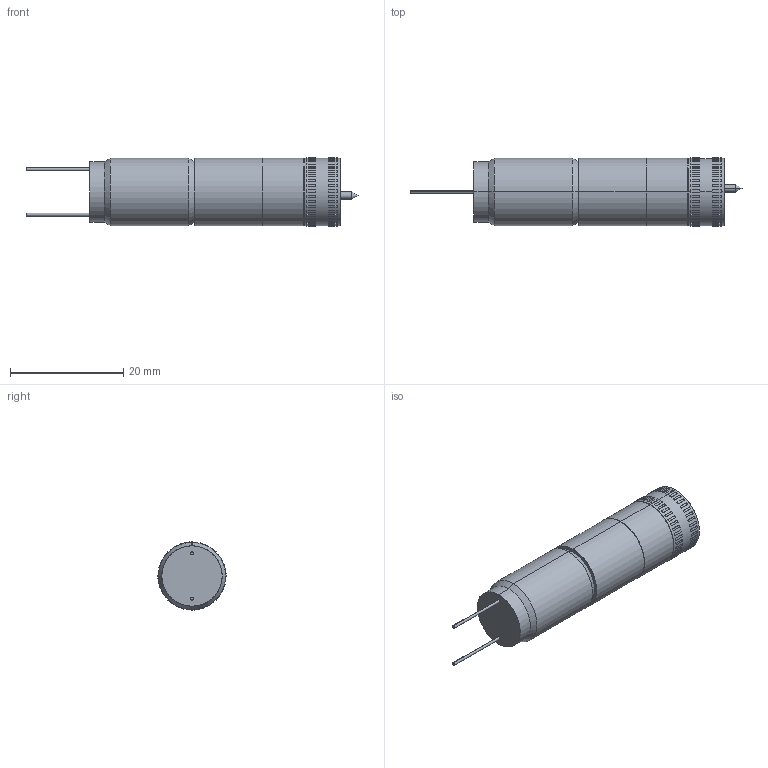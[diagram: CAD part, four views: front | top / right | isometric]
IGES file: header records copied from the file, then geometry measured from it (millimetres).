
Start section: SolidWorks IGES file using analytic representation for surfaces
Global section: file name: C:\Documents and Settings\mrumschlag\Desktop\changes\new\BMP-1\BMP-1.IGS; native system: SolidWorks 2008; preprocessor: SolidWorks 2008; author: mrumschlag; date: 110414.082732; units: inch
Bounding box: 58.6 x 12.01 x 12.01 mm (x, y, z)
Surface area: 2027.6 mm2 (no closed solid volume)
Topology: 0 solids, 0 shells, 450 faces, 2700 edges, 2698 vertices
Faces by surface type: bspline 417, revolution 33
